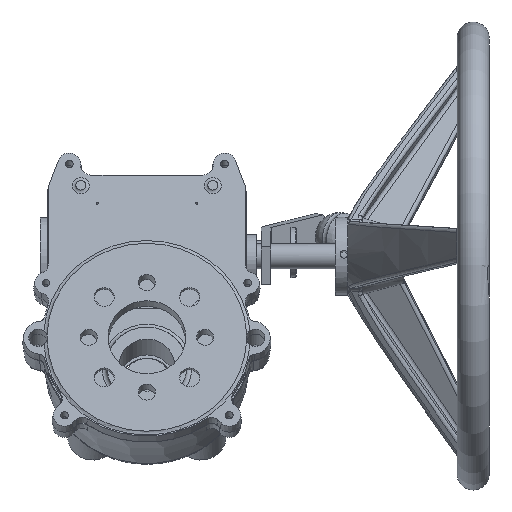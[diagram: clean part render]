
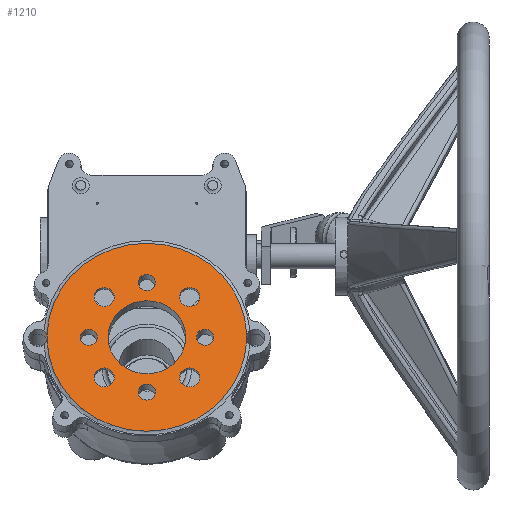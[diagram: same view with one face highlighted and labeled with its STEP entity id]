
A CAD part, top view. The second image highlights one B-rep face of the part: STEP entity #1210.
In plain terms, the highlighted planar face has unit normal (0, 0.337, 0.942) as drawn and (0, 0, 1) by its records, which use the part's own axes.
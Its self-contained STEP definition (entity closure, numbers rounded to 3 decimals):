
#1210 = ADVANCED_FACE( '', ( #2720, #2721, #2722, #2723, #2724, #2725, #2726, #2727, #2728, #2729 ), #2730, .T. );
#2720 = FACE_BOUND( '', #7755, .T. );
#2721 = FACE_BOUND( '', #7756, .T. );
#2722 = FACE_BOUND( '', #7757, .T. );
#2723 = FACE_BOUND( '', #7758, .T. );
#2724 = FACE_OUTER_BOUND( '', #7759, .T. );
#2725 = FACE_BOUND( '', #7760, .T. );
#2726 = FACE_BOUND( '', #7761, .T. );
#2727 = FACE_BOUND( '', #7762, .T. );
#2728 = FACE_BOUND( '', #7763, .T. );
#2729 = FACE_BOUND( '', #7764, .T. );
#2730 = PLANE( '', #7765 );
#7755 = EDGE_LOOP( '', ( #19213 ) );
#7756 = EDGE_LOOP( '', ( #19214 ) );
#7757 = EDGE_LOOP( '', ( #19215 ) );
#7758 = EDGE_LOOP( '', ( #19216 ) );
#7759 = EDGE_LOOP( '', ( #19217, #19218, #19219, #19220 ) );
#7760 = EDGE_LOOP( '', ( #19221 ) );
#7761 = EDGE_LOOP( '', ( #19222 ) );
#7762 = EDGE_LOOP( '', ( #19223 ) );
#7763 = EDGE_LOOP( '', ( #19224 ) );
#7764 = EDGE_LOOP( '', ( #19225 ) );
#7765 = AXIS2_PLACEMENT_3D( '', #19226, #19227, #19228 );
#19213 = ORIENTED_EDGE( '', *, *, #23195, .F. );
#19214 = ORIENTED_EDGE( '', *, *, #23196, .F. );
#19215 = ORIENTED_EDGE( '', *, *, #22814, .F. );
#19216 = ORIENTED_EDGE( '', *, *, #23190, .F. );
#19217 = ORIENTED_EDGE( '', *, *, #23197, .F. );
#19218 = ORIENTED_EDGE( '', *, *, #23198, .T. );
#19219 = ORIENTED_EDGE( '', *, *, #23199, .F. );
#19220 = ORIENTED_EDGE( '', *, *, #23200, .T. );
#19221 = ORIENTED_EDGE( '', *, *, #23201, .F. );
#19222 = ORIENTED_EDGE( '', *, *, #23202, .F. );
#19223 = ORIENTED_EDGE( '', *, *, #23203, .F. );
#19224 = ORIENTED_EDGE( '', *, *, #22692, .F. );
#19225 = ORIENTED_EDGE( '', *, *, #23204, .F. );
#19226 = CARTESIAN_POINT( '', ( 258.788, -78.479, 13. ) );
#19227 = DIRECTION( '', ( 0., 0., 1. ) );
#19228 = DIRECTION( '', ( 1., 0., 0. ) );
#22692 = EDGE_CURVE( '', #24820, #24820, #24821, .T. );
#22814 = EDGE_CURVE( '', #25018, #25018, #25019, .T. );
#23190 = EDGE_CURVE( '', #25610, #25610, #25611, .T. );
#23195 = EDGE_CURVE( '', #25618, #25618, #25619, .T. );
#23196 = EDGE_CURVE( '', #25620, #25620, #25621, .T. );
#23197 = EDGE_CURVE( '', #25622, #25623, #25624, .T. );
#23198 = EDGE_CURVE( '', #25622, #25625, #25626, .F. );
#23199 = EDGE_CURVE( '', #25627, #25625, #25628, .T. );
#23200 = EDGE_CURVE( '', #25627, #25623, #25629, .F. );
#23201 = EDGE_CURVE( '', #25630, #25630, #25631, .T. );
#23202 = EDGE_CURVE( '', #25632, #25632, #25633, .T. );
#23203 = EDGE_CURVE( '', #25634, #25634, #25635, .T. );
#23204 = EDGE_CURVE( '', #25636, #25636, #25637, .T. );
#24820 = VERTEX_POINT( '', #30380 );
#24821 = CIRCLE( '', #30381, 6.5 );
#25018 = VERTEX_POINT( '', #31236 );
#25019 = CIRCLE( '', #31237, 5.5 );
#25610 = VERTEX_POINT( '', #33412 );
#25611 = CIRCLE( '', #33413, 5.5 );
#25618 = VERTEX_POINT( '', #33427 );
#25619 = CIRCLE( '', #33428, 5.5 );
#25620 = VERTEX_POINT( '', #33429 );
#25621 = CIRCLE( '', #33430, 5.5 );
#25622 = VERTEX_POINT( '', #33431 );
#25623 = VERTEX_POINT( '', #33432 );
#25624 = CIRCLE( '', #33433, 6. );
#25625 = VERTEX_POINT( '', #33434 );
#25626 = CIRCLE( '', #33435, 64.264 );
#25627 = VERTEX_POINT( '', #33436 );
#25628 = CIRCLE( '', #33437, 6. );
#25629 = CIRCLE( '', #33438, 64.264 );
#25630 = VERTEX_POINT( '', #33439 );
#25631 = CIRCLE( '', #33440, 6.5 );
#25632 = VERTEX_POINT( '', #33441 );
#25633 = CIRCLE( '', #33442, 6.5 );
#25634 = VERTEX_POINT( '', #33443 );
#25635 = CIRCLE( '', #33444, 6.5 );
#25636 = VERTEX_POINT( '', #33445 );
#25637 = CIRCLE( '', #33446, 25. );
#30380 = CARTESIAN_POINT( '', ( 34., 79.426, 13. ) );
#30381 = AXIS2_PLACEMENT_3D( '', #39090, #39091, #39092 );
#31236 = CARTESIAN_POINT( '', ( 37.5, 57.426, 13. ) );
#31237 = AXIS2_PLACEMENT_3D( '', #39262, #39263, #39264 );
#33412 = CARTESIAN_POINT( '', ( 0., 94.926, 13. ) );
#33413 = AXIS2_PLACEMENT_3D( '', #39781, #39782, #39783 );
#33427 = CARTESIAN_POINT( '', ( -37.5, 57.426, 13. ) );
#33428 = AXIS2_PLACEMENT_3D( '', #39790, #39791, #39792 );
#33429 = CARTESIAN_POINT( '', ( 0., 19.926, 13. ) );
#33430 = AXIS2_PLACEMENT_3D( '', #39793, #39794, #39795 );
#33431 = CARTESIAN_POINT( '', ( -64.242, 50.24, 13. ) );
#33432 = CARTESIAN_POINT( '', ( -64.242, 53.612, 13. ) );
#33433 = AXIS2_PLACEMENT_3D( '', #39796, #39797, #39798 );
#33434 = CARTESIAN_POINT( '', ( 64.242, 50.24, 13. ) );
#33435 = AXIS2_PLACEMENT_3D( '', #39799, #39800, #39801 );
#33436 = CARTESIAN_POINT( '', ( 64.242, 53.612, 13. ) );
#33437 = AXIS2_PLACEMENT_3D( '', #39802, #39803, #39804 );
#33438 = AXIS2_PLACEMENT_3D( '', #39805, #39806, #39807 );
#33439 = CARTESIAN_POINT( '', ( 34., 24.426, 13. ) );
#33440 = AXIS2_PLACEMENT_3D( '', #39808, #39809, #39810 );
#33441 = CARTESIAN_POINT( '', ( -21., 24.426, 13. ) );
#33442 = AXIS2_PLACEMENT_3D( '', #39811, #39812, #39813 );
#33443 = CARTESIAN_POINT( '', ( -21., 79.426, 13. ) );
#33444 = AXIS2_PLACEMENT_3D( '', #39814, #39815, #39816 );
#33445 = CARTESIAN_POINT( '', ( 25., 51.926, 13. ) );
#33446 = AXIS2_PLACEMENT_3D( '', #39817, #39818, #39819 );
#39090 = CARTESIAN_POINT( '', ( 27.5, 79.426, 13. ) );
#39091 = DIRECTION( '', ( 0., 0., 1. ) );
#39092 = DIRECTION( '', ( 1., 0., 0. ) );
#39262 = CARTESIAN_POINT( '', ( 37.5, 51.926, 13. ) );
#39263 = DIRECTION( '', ( 0., 0., 1. ) );
#39264 = DIRECTION( '', ( 0., 1., 0. ) );
#39781 = CARTESIAN_POINT( '', ( 0., 89.426, 13. ) );
#39782 = DIRECTION( '', ( 0., 0., 1. ) );
#39783 = DIRECTION( '', ( 0., 1., 0. ) );
#39790 = CARTESIAN_POINT( '', ( -37.5, 51.926, 13. ) );
#39791 = DIRECTION( '', ( 0., 0., 1. ) );
#39792 = DIRECTION( '', ( 0., 1., 0. ) );
#39793 = CARTESIAN_POINT( '', ( 0., 14.426, 13. ) );
#39794 = DIRECTION( '', ( 0., 0., 1. ) );
#39795 = DIRECTION( '', ( 0., 1., 0. ) );
#39796 = CARTESIAN_POINT( '', ( -70., 51.926, 13. ) );
#39797 = DIRECTION( '', ( 0., 0., 1. ) );
#39798 = DIRECTION( '', ( 1., 0., 0. ) );
#39799 = CARTESIAN_POINT( '', ( 0., 51.926, 13. ) );
#39800 = DIRECTION( '', ( 0., 0., -1. ) );
#39801 = DIRECTION( '', ( -1., 0., 0. ) );
#39802 = CARTESIAN_POINT( '', ( 70., 51.926, 13. ) );
#39803 = DIRECTION( '', ( 0., 0., 1. ) );
#39804 = DIRECTION( '', ( 1., 0., 0. ) );
#39805 = CARTESIAN_POINT( '', ( 0., 51.926, 13. ) );
#39806 = DIRECTION( '', ( 0., 0., -1. ) );
#39807 = DIRECTION( '', ( -1., 0., 0. ) );
#39808 = CARTESIAN_POINT( '', ( 27.5, 24.426, 13. ) );
#39809 = DIRECTION( '', ( 0., 0., 1. ) );
#39810 = DIRECTION( '', ( 1., 0., 0. ) );
#39811 = CARTESIAN_POINT( '', ( -27.5, 24.426, 13. ) );
#39812 = DIRECTION( '', ( 0., 0., 1. ) );
#39813 = DIRECTION( '', ( 1., 0., 0. ) );
#39814 = CARTESIAN_POINT( '', ( -27.5, 79.426, 13. ) );
#39815 = DIRECTION( '', ( 0., 0., 1. ) );
#39816 = DIRECTION( '', ( 1., 0., 0. ) );
#39817 = CARTESIAN_POINT( '', ( 0., 51.926, 13. ) );
#39818 = DIRECTION( '', ( 0., 0., 1. ) );
#39819 = DIRECTION( '', ( 1., 0., 0. ) );
